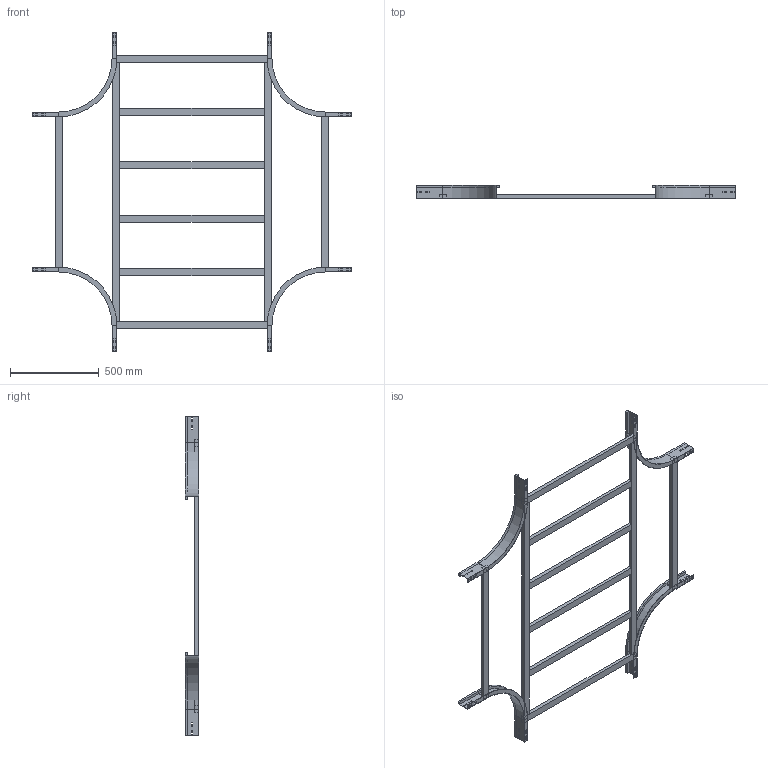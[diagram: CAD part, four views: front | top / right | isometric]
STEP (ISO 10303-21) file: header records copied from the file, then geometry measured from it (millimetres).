
FILE_DESCRIPTION (( 'STEP AP214' ), '1' );
FILE_NAME ('A2_17B3C900.step', '2025-02-21T15:58:53', ( '' ), ( '' ), 'SwSTEP 2.0', 'SolidWorks 2023', '' );
FILE_SCHEMA (( 'AUTOMOTIVE_DESIGN' ));
Length unit declared in the file: millimetre
Products named in the file (5): TRAVERSINO_INTERMEDIO_R300+900; TRAVERSINO_900; A2_LONGH.INTERNO 90°_H75_R300; A2_17B3C900; A2_TRAVERSINO_LONG._R300+900
Assembly tree (14 placements, depth 2):
  A2_17B3C900
    A2_LONGH.INTERNO 90°_H75_R300  x4
    TRAVERSINO_900  x4
    A2_TRAVERSINO_LONG._R300+900  x2
    TRAVERSINO_INTERMEDIO_R300+900  x4
Bounding box: 1800 x 75 x 1800 mm (x, y, z)
Volume: 9125038.1 mm3; surface area: 1931618.6 mm2
Topology: 14 solids, 14 shells, 292 faces, 728 edges, 464 vertices
Faces by surface type: plane 276, cylinder 16
Entity records: 2458 total; most frequent: CARTESIAN_POINT 401, DIRECTION 382, ORIENTED_EDGE 376, EDGE_CURVE 188, VECTOR 180, LINE 180, VERTEX_POINT 120, AXIS2_PLACEMENT_3D 101
